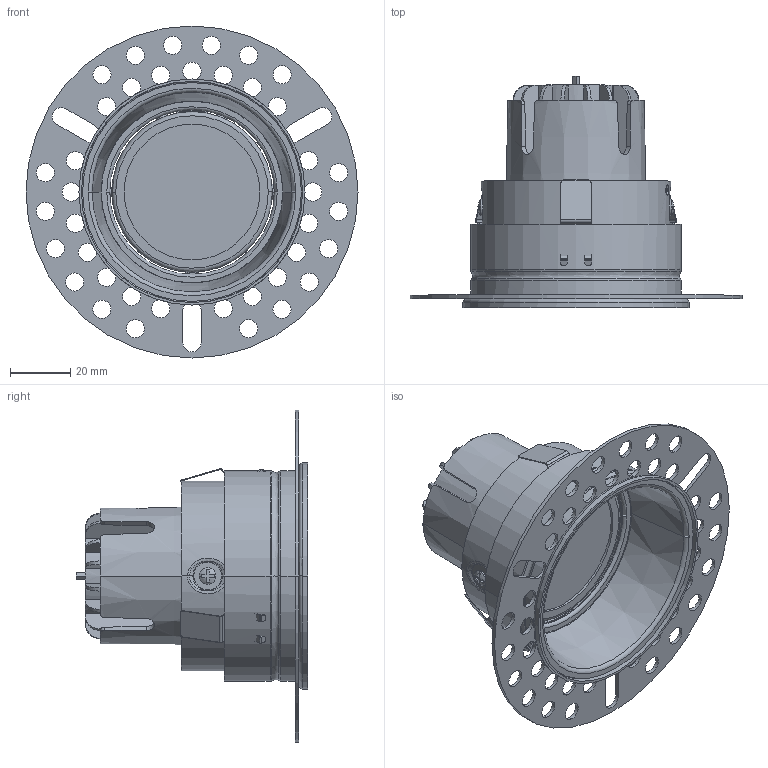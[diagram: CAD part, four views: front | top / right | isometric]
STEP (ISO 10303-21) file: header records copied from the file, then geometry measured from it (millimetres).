
FILE_DESCRIPTION((''),'2;1');
FILE_NAME('TC44010-9-3_ASM_3_ASM','2024-10-21T',('Administrator'),(''),'PRO/ENGINEER BY PARAMETRIC TECHNOLOGY CORPORATION, 2010280','PRO/ENGINEER BY PARAMETRIC TECHNOLOGY CORPORATION, 2010280','');
FILE_SCHEMA(('AUTOMOTIVE_DESIGN { 1 0 10303 214 1 1 1 1 }'));
Length unit declared in the file: millimetre
Products named in the file (23): W0632-2_7_93_1; W0632-1_7_93_1; W0633-1_7_93_1; W0633-2_7_93_2; W0634_7_93_4; YTM3X4_811_7_93_1; F0128_7_93_1; ZUOFEI_7_93_1; W0567_7_93_1; MAODING_1_7_93_4; W0475-TH_93_1; MAIZHU5X4_1; Y1049_21; P12YXB_3; SJ0674_20; M3X6YT_1; P0722_3; GYB3C2B_1; M2-5_3; KF4414_2; FGZHI_1; TC34077_ASM_27_ASM; TC44010-9-3_ASM_3_ASM
Assembly tree (29 placements, depth 3):
  TC44010-9-3_ASM_3_ASM
    W0632-2_7_93_1
    W0632-1_7_93_1
    W0633-1_7_93_1
    W0633-2_7_93_2
    W0634_7_93_4
    YTM3X4_811_7_93_1  x2
    F0128_7_93_1
    ZUOFEI_7_93_1  x3
    W0567_7_93_1
    MAODING_1_7_93_4
    W0475-TH_93_1  x3
    MAIZHU5X4_1
    TC34077_ASM_27_ASM
      Y1049_21
      P12YXB_3
      SJ0674_20
      M3X6YT_1  x2
      P0722_3
      GYB3C2B_1
      M2-5_3  x2
      KF4414_2
      FGZHI_1
Bounding box: 110 x 76.8 x 110 mm (x, y, z)
Volume: 67073.1 mm3; surface area: 95111.2 mm2
Topology: 28 solids, 28 shells, 1430 faces, 3930 edges, 2620 vertices
Faces by surface type: plane 715, cylinder 403, cone 126, torus 114, bspline 57, sphere 9, revolution 6
Entity records: 48522 total; most frequent: CARTESIAN_POINT 12743, DIRECTION 6739, ORIENTED_EDGE 6692, EDGE_CURVE 3346, AXIS2_PLACEMENT_3D 2608, VERTEX_POINT 2230, VECTOR 1517, LINE 1517
